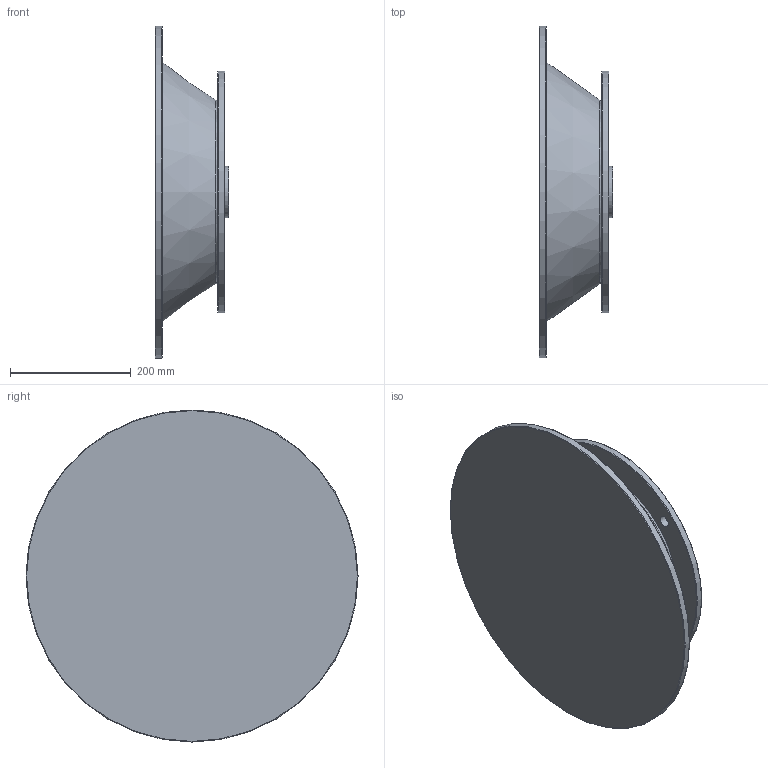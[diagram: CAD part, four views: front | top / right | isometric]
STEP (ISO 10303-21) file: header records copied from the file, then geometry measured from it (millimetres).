
FILE_DESCRIPTION((''),'2;1');
FILE_NAME('D:\PAWEŁ\ZLECENIA\2011 DualSystem\Przekładnie DR\DR160\STEP\200_B5_L115,5.stp','2012-06-11T13:05:25',('admin'),(''),'Autodesk Inventor 2009','Autodesk Inventor 2009','');
FILE_SCHEMA(('AUTOMOTIVE_DESIGN { 1 0 10303 214 1 1 1 1 }'));
Length unit declared in the file: millimetre
Products named in the file (1): 200_B5_L115,5
Bounding box: 122 x 550 x 550 mm (x, y, z)
Volume: 4682829.6 mm3; surface area: 924162.1 mm2
Topology: 1 solids, 1 shells, 30 faces, 58 edges, 36 vertices
Faces by surface type: plane 11, cylinder 6, bspline 6, torus 5, cone 2
Full cylindrical faces by diameter (mm): 85 x1, 285.28 x1, 300 x1, 400 x1, 550 x1
Entity records: 895 total; most frequent: CARTESIAN_POINT 281, DIRECTION 120, ORIENTED_EDGE 80, EDGE_LOOP 62, AXIS2_PLACEMENT_3D 55, EDGE_CURVE 40, VERTEX_POINT 36, FACE_BOUND 32
